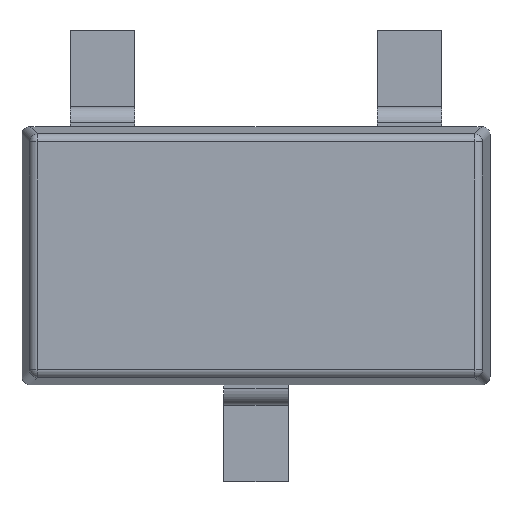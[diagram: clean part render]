
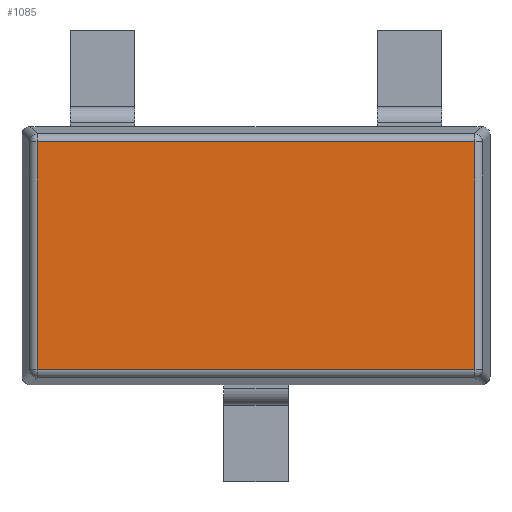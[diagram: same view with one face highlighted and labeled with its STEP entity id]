
A CAD part, top view. The second image highlights one B-rep face of the part: STEP entity #1085.
In plain terms, the highlighted planar face has unit normal (0, 0, 1).
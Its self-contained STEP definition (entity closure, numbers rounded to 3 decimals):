
#4 = DIRECTION ( 'NONE',  ( -1., 0., 0. ) ) ;
#5 = DIRECTION ( 'NONE',  ( 0., 0., -1. ) ) ;
#6 = CARTESIAN_POINT ( 'NONE',  ( -1.45, 0.8, 1.15 ) ) ;
#7 = AXIS2_PLACEMENT_3D ( 'NONE', #6, #5, #4 ) ;
#9 = PLANE ( 'NONE',  #7 ) ;
#11 = FACE_OUTER_BOUND ( 'NONE', #1023, .T. ) ;
#68 = DIRECTION ( 'NONE',  ( 0., 1., 0. ) ) ;
#69 = VECTOR ( 'NONE', #68, 1000. ) ;
#70 = CARTESIAN_POINT ( 'NONE',  ( 1.355, 0.747, 1.15 ) ) ;
#77 = LINE ( 'NONE', #70, #69 ) ;
#999 = VERTEX_POINT ( 'NONE', #2006 ) ;
#1000 = ORIENTED_EDGE ( 'NONE', *, *, #1098, .T. ) ;
#1002 = VERTEX_POINT ( 'NONE', #2008 ) ;
#1023 = EDGE_LOOP ( 'NONE', ( #1000, #1030, #1132, #1032 ) ) ;
#1024 = EDGE_CURVE ( 'NONE', #1133, #1002, #2056, .T. ) ;
#1027 = VERTEX_POINT ( 'NONE', #2067 ) ;
#1030 = ORIENTED_EDGE ( 'NONE', *, *, #1130, .T. ) ;
#1031 = EDGE_CURVE ( 'NONE', #1027, #1133, #2109, .T. ) ;
#1032 = ORIENTED_EDGE ( 'NONE', *, *, #1024, .T. ) ;
#1085 = ADVANCED_FACE ( 'NONE', ( #11 ), #9, .F. ) ;
#1098 = EDGE_CURVE ( 'NONE', #1002, #999, #77, .T. ) ;
#1130 = EDGE_CURVE ( 'NONE', #999, #1027, #1211, .T. ) ;
#1132 = ORIENTED_EDGE ( 'NONE', *, *, #1031, .T. ) ;
#1133 = VERTEX_POINT ( 'NONE', #1252 ) ;
#1175 = VECTOR ( 'NONE', #1253, 1000. ) ;
#1176 = CARTESIAN_POINT ( 'NONE',  ( -1.397, 0.705, 1.15 ) ) ;
#1211 = LINE ( 'NONE', #1176, #1175 ) ;
#1252 = CARTESIAN_POINT ( 'NONE',  ( -1.355, -0.705, 1.15 ) ) ;
#1253 = DIRECTION ( 'NONE',  ( -1., 0., 0. ) ) ;
#2006 = CARTESIAN_POINT ( 'NONE',  ( 1.355, 0.705, 1.15 ) ) ;
#2008 = CARTESIAN_POINT ( 'NONE',  ( 1.355, -0.705, 1.15 ) ) ;
#2053 = DIRECTION ( 'NONE',  ( 1., 0., 0. ) ) ;
#2054 = VECTOR ( 'NONE', #2053, 1000. ) ;
#2055 = CARTESIAN_POINT ( 'NONE',  ( 1.397, -0.705, 1.15 ) ) ;
#2056 = LINE ( 'NONE', #2055, #2054 ) ;
#2067 = CARTESIAN_POINT ( 'NONE',  ( -1.355, 0.705, 1.15 ) ) ;
#2106 = DIRECTION ( 'NONE',  ( 0., -1., 0. ) ) ;
#2107 = VECTOR ( 'NONE', #2106, 1000. ) ;
#2108 = CARTESIAN_POINT ( 'NONE',  ( -1.355, -0.747, 1.15 ) ) ;
#2109 = LINE ( 'NONE', #2108, #2107 ) ;
